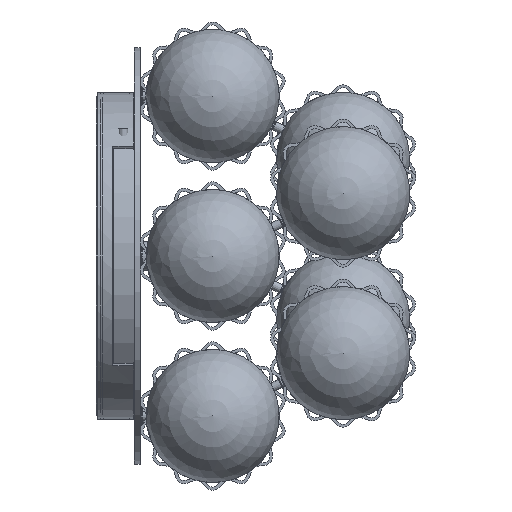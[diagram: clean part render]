
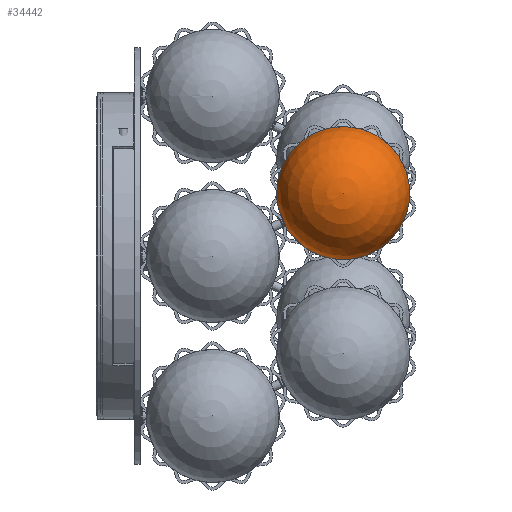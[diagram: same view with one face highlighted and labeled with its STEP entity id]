
A CAD part, left-side view. The second image highlights one B-rep face of the part: STEP entity #34442.
In plain terms, the highlighted spherical face has radius 22.5 mm.
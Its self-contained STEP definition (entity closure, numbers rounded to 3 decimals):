
#15=SPHERICAL_SURFACE('',#37015,22.5);
#7822=FACE_OUTER_BOUND('',#9680,.T.);
#9680=EDGE_LOOP('',(#24655,#24656,#24657,#24658));
#11536=CIRCLE('',#36980,14.527);
#11537=CIRCLE('',#36981,14.527);
#11559=CIRCLE('',#37016,22.5);
#13913=VERTEX_POINT('',#54387);
#13914=VERTEX_POINT('',#54391);
#13931=VERTEX_POINT('',#54447);
#17819=EDGE_CURVE('',#13914,#13913,#11536,.T.);
#17820=EDGE_CURVE('',#13913,#13914,#11537,.T.);
#17845=EDGE_CURVE('',#13914,#13931,#11559,.T.);
#24655=ORIENTED_EDGE('',*,*,#17820,.T.);
#24656=ORIENTED_EDGE('',*,*,#17845,.T.);
#24657=ORIENTED_EDGE('',*,*,#17845,.F.);
#24658=ORIENTED_EDGE('',*,*,#17819,.T.);
#34442=ADVANCED_FACE('',(#7822),#15,.T.);
#36980=AXIS2_PLACEMENT_3D('',#54392,#43064,#43065);
#36981=AXIS2_PLACEMENT_3D('',#54393,#43066,#43067);
#37015=AXIS2_PLACEMENT_3D('',#54446,#43137,#43138);
#37016=AXIS2_PLACEMENT_3D('',#54448,#43139,#43140);
#43064=DIRECTION('center_axis',(-1.,0.,0.));
#43065=DIRECTION('ref_axis',(0.,-0.84,0.543));
#43066=DIRECTION('center_axis',(-1.,0.,0.));
#43067=DIRECTION('ref_axis',(0.,-0.84,0.543));
#43137=DIRECTION('center_axis',(1.,0.,0.));
#43138=DIRECTION('ref_axis',(0.,-0.84,0.543));
#43139=DIRECTION('center_axis',(0.,0.543,
0.84));
#43140=DIRECTION('ref_axis',(0.,0.84,-0.543));
#54387=CARTESIAN_POINT('',(-582.118,14.108,8.931));
#54391=CARTESIAN_POINT('',(-582.118,34.195,13.245));
#54392=CARTESIAN_POINT('Origin',(-582.118,21.994,21.131));
#54393=CARTESIAN_POINT('Origin',(-582.118,21.994,21.131));
#54446=CARTESIAN_POINT('Origin',(-599.3,21.994,21.131));
#54447=CARTESIAN_POINT('',(-621.8,21.994,21.131));
#54448=CARTESIAN_POINT('Origin',(-599.3,21.994,21.131));
